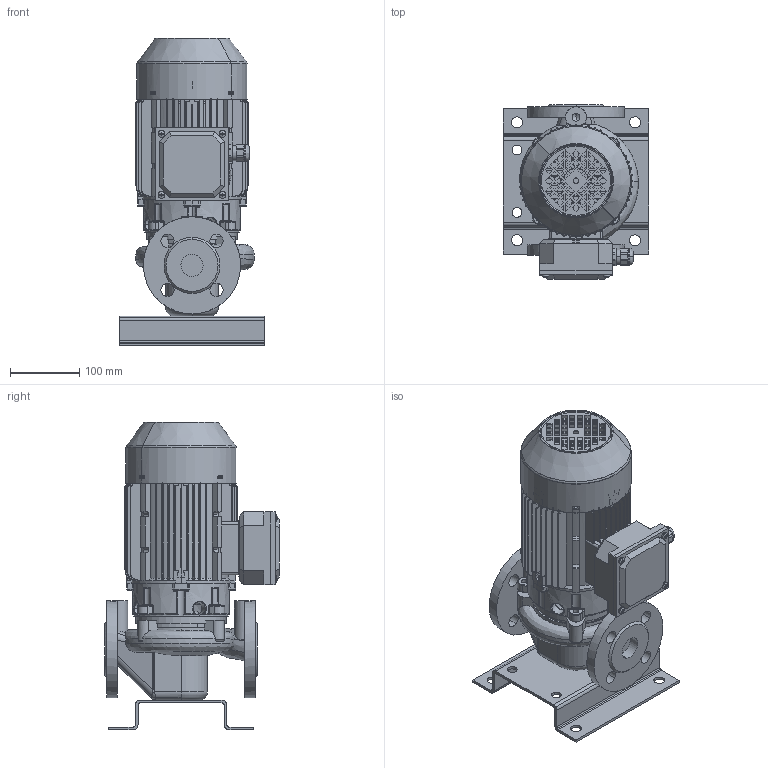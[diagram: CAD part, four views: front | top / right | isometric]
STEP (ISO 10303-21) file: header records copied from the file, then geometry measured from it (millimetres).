
FILE_DESCRIPTION(('STEP AP214'),'1');
FILE_NAME('export.stp','2018-05-29T08:39:42',(' '),(' '),'Spatial InterOp 3D',' ',' ');
FILE_SCHEMA(('AUTOMOTIVE_DESIGN { 1 0 10303 214 1 1 1 1 }'));
Length unit declared in the file: millimetre
Products named in the file (26): W_L32A2650_KP80_1; V_TLL32AAP15AKP25; V_PPL32A; V_JALKA35973; 160018; 160002_Valu; V_KP80-1_N12; M5x8_DIN; DIN_7985-M5X8; 160141; M5x12_DIN; DIN_7985-M5X12; 160137; 160138; 160139; 160140; Koura_Ale_M5; Plug_Blind_M20; Sealing_Plug_M20; plain_washer_grade_a_din_Washer_; 160039___; 160040___; 160133
Assembly tree (28 placements, depth 5):
  W_L32A2650_KP80_1
    V_TLL32AAP15AKP25
    V_PPL32A
    V_JALKA35973
    V_KP80-1_N12
      160018
        160002_Valu
      160141
        M5x8_DIN
          DIN_7985-M5X8
        M5x12_DIN
          DIN_7985-M5X12
        M5x12_DIN
          DIN_7985-M5X12
        M5x12_DIN
          DIN_7985-M5X12
        M5x12_DIN
          DIN_7985-M5X12
        160137
        160138
        160139
        160140
        Koura_Ale_M5
        Plug_Blind_M20
        Sealing_Plug_M20
        plain_washer_grade_a_din_Washer_
      160039___
      160040___
      160133
Bounding box: 210 x 251.5 x 443.5 mm (x, y, z)
Volume: 3017115 mm3; surface area: 967697.3 mm2
Topology: 20 solids, 20 shells, 2985 faces, 7815 edges, 4873 vertices
Faces by surface type: plane 1103, cylinder 916, bspline 454, torus 304, cone 145, sphere 63
Entity records: 124990 total; most frequent: CARTESIAN_POINT 52357, ORIENTED_EDGE 15210, DIRECTION 13510, EDGE_CURVE 7605, AXIS2_PLACEMENT_3D 5122, VERTEX_POINT 4777, LINE 3266, VECTOR 3266
